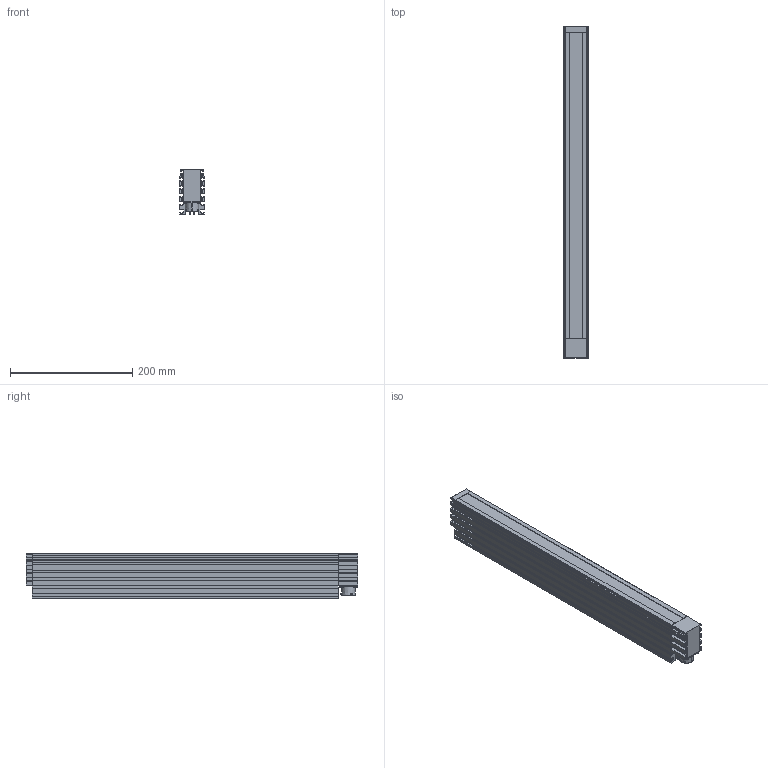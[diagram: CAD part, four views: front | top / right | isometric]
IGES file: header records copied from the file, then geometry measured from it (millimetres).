
Start section: SolidWorks IGES file using analytic representation for surfaces
Global section: file name: C:\Users\88691\Desktop\VST LIGHTING\VST LINEAR LIGHT 線燈\VLN 線光\VLN STEP圖檔用\VLN (L_D_X)-500W _ Drawing _ L1258A (L1273A_L1289A_L1304A)-A00101.IGS; native system: SolidWorks 2020; preprocessor: SolidWorks 2020; author: 88691; date: 240624.133112; units: millimetre
Bounding box: 40 x 542 x 75 mm (x, y, z)
Surface area: 299902.7 mm2 (no closed solid volume)
Topology: 0 solids, 0 shells, 1158 faces, 12124 edges, 12123 vertices
Faces by surface type: bspline 734, revolution 424
